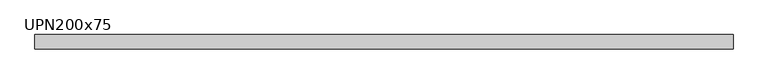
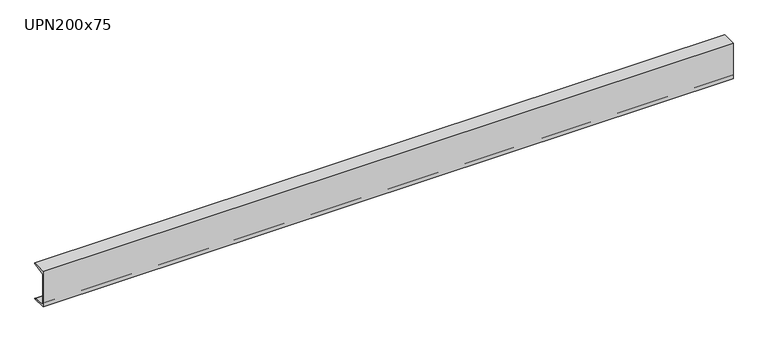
"""IFC4 building model written with IfcOpenShell, lengths in millimetres: beam geometry, M_MC Shapes : UPN200x75."""

from ifc_helpers import new_model, si_unit, point, frame, frame_2d, origin, place, context, project, spatial, polyline, circle_curve, trimmed, segment, composite_curve, outline, extrude, source, transform, mapped, element, save


def upn200x75_5ddb06b6(model_context):
    return source(origin(), model_context, "Body", "SweptSolid", [
        extrude(outline(composite_curve([segment(polyline([(-10.9, 100.0), (64.1, 100.0), (64.1, 99.0253247)]), True, "CONTINUOUS"), segment(trimmed(circle_curve(frame_2d((60.15, 99.0253247)), 3.95), [point((64.1, 99.0253247))], [point((60.7993773, 95.1290689))], False, "CARTESIAN"), True, "CONTINUOUS"), segment(polyline([(60.7993773, 95.1290689), (0.2512455, 85.0376935)]), True, "CONTINUOUS"), segment(trimmed(circle_curve(frame_2d((1.55, 77.2451819)), 7.9), [point((0.2512455, 85.0376935))], [point((-6.35, 77.2451819))], True, "CARTESIAN"), True, "CONTINUOUS"), segment(polyline([(-6.35, 77.2451819), (-6.35, -77.2451819)]), True, "CONTINUOUS"), segment(trimmed(circle_curve(frame_2d((1.55, -77.2451819)), 7.9), [point((-6.35, -77.2451819))], [point((0.2512455, -85.0376935))], True, "CARTESIAN"), True, "CONTINUOUS"), segment(polyline([(0.2512455, -85.0376935), (60.7993773, -95.1290689)]), True, "CONTINUOUS"), segment(trimmed(circle_curve(frame_2d((60.15, -99.0253247)), 3.95), [point((60.7993773, -95.1290689))], [point((64.1, -99.0253247))], False, "CARTESIAN"), True, "CONTINUOUS"), segment(polyline([(64.1, -99.0253247), (64.1, -100.0), (-10.9, -100.0), (-10.9, 100.0)]), True, "CONTINUOUS")], self_intersect=False)), frame((-1816.95, 0.0, 0.0), z_axis=(1.0, 0.0, 0.0), x_axis=(0.0, 1.0, 0.0)), (0.0, 0.0, 1.0), 3633.9),
    ])


if __name__ == "__main__":
    model = new_model("IFC4")
    model_context = context("Model", 3, world=origin())
    ifc_project = project(units=[si_unit("LENGTHUNIT", "METRE", prefix="MILLI")], contexts=[model_context])
    site = spatial("IfcSite", under=ifc_project)
    building = spatial("IfcBuilding", under=site)
    placement = place(None, origin())
    upn200x75_shape = upn200x75_5ddb06b6(model_context)
    element("IfcBeam", 1, ObjectType="M_MC Shapes : UPN200x75", at=placement, inside=building, context=model_context, shape_type="MappedRepresentation", body=[
        mapped(upn200x75_shape, transform((0.0, 0.0, 0.0), x_axis=(1.0, 0.0, 0.0), y_axis=(0.0, 1.0, 0.0), z_axis=(0.0, 0.0, 1.0))),
    ])
    save(model, "model.ifc")
